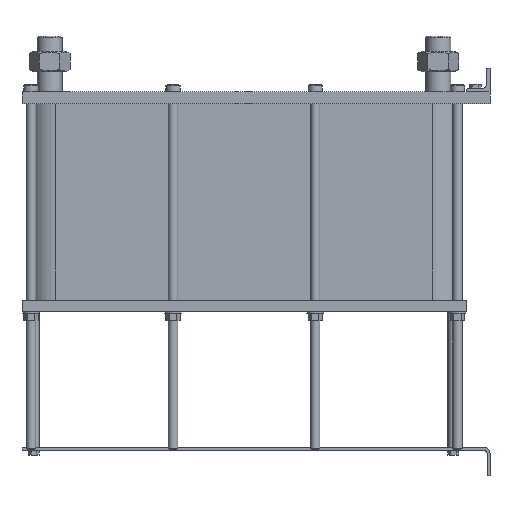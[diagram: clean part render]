
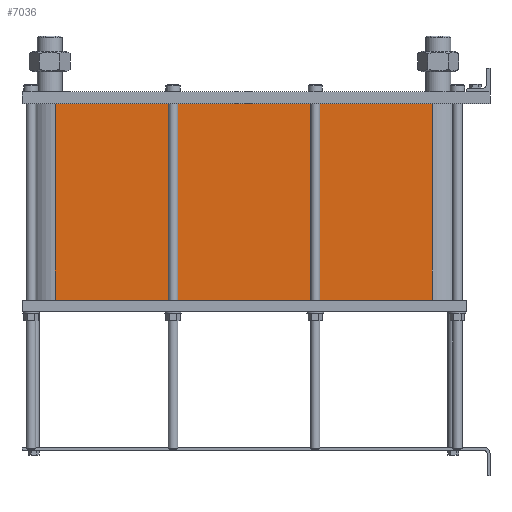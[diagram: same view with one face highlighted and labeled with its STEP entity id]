
A CAD part, left-side view. The second image highlights one B-rep face of the part: STEP entity #7036.
In plain terms, the highlighted planar face has unit normal (-1, 0, 0).
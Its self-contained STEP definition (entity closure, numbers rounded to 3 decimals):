
#999=LINE('',#15640,#1553);
#1031=LINE('',#15723,#1585);
#1032=LINE('',#15726,#1586);
#1033=LINE('',#15727,#1587);
#1553=VECTOR('',#9658,10.);
#1585=VECTOR('',#9736,10.);
#1586=VECTOR('',#9741,10.);
#1587=VECTOR('',#9742,10.);
#2117=FACE_OUTER_BOUND('',#2671,.T.);
#2671=EDGE_LOOP('',(#6246,#6247,#6248,#6249));
#3527=VERTEX_POINT('',#15634);
#3529=VERTEX_POINT('',#15638);
#3556=VERTEX_POINT('',#15720);
#3557=VERTEX_POINT('',#15722);
#4425=EDGE_CURVE('',#3529,#3527,#999,.T.);
#4466=EDGE_CURVE('',#3557,#3556,#1031,.T.);
#4468=EDGE_CURVE('',#3527,#3556,#1032,.T.);
#4469=EDGE_CURVE('',#3557,#3529,#1033,.T.);
#6246=ORIENTED_EDGE('',*,*,#4468,.F.);
#6247=ORIENTED_EDGE('',*,*,#4425,.F.);
#6248=ORIENTED_EDGE('',*,*,#4469,.F.);
#6249=ORIENTED_EDGE('',*,*,#4466,.T.);
#6608=PLANE('',#7812);
#7036=ADVANCED_FACE('',(#2117),#6608,.T.);
#7812=AXIS2_PLACEMENT_3D('',#15725,#9739,#9740);
#9658=DIRECTION('',(0.,0.,-1.));
#9736=DIRECTION('',(0.,0.,-1.));
#9739=DIRECTION('center_axis',(-1.,0.,0.));
#9740=DIRECTION('ref_axis',(0.,1.,0.));
#9741=DIRECTION('',(0.,1.,0.));
#9742=DIRECTION('',(0.,-1.,0.));
#15634=CARTESIAN_POINT('',(-72.,97.5,-331.7));
#15638=CARTESIAN_POINT('',(-72.,97.5,0.));
#15640=CARTESIAN_POINT('',(-72.,97.5,0.));
#15720=CARTESIAN_POINT('',(-72.,733.5,-331.7));
#15722=CARTESIAN_POINT('',(-72.,733.5,0.));
#15723=CARTESIAN_POINT('',(-72.,733.5,0.));
#15725=CARTESIAN_POINT('Origin',(-72.,97.5,0.));
#15726=CARTESIAN_POINT('',(-72.,256.5,-331.7));
#15727=CARTESIAN_POINT('',(-72.,733.5,0.));
